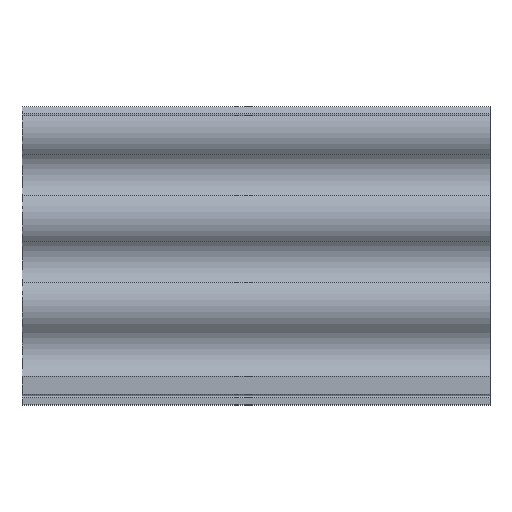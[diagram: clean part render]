
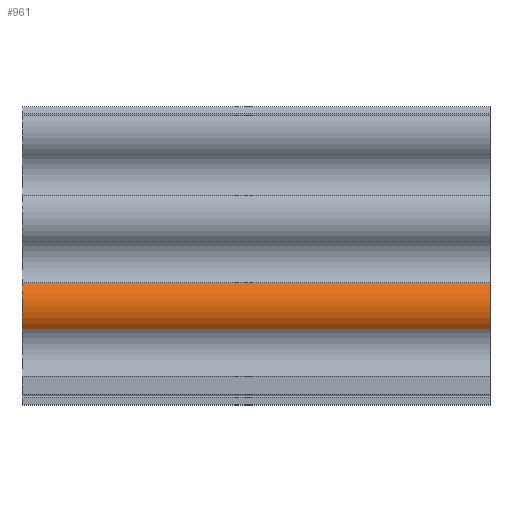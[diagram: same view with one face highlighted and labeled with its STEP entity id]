
A CAD part, top view. The second image highlights one B-rep face of the part: STEP entity #961.
In plain terms, the highlighted cylindrical face has radius 19.5 mm (diameter 39 mm), a partial arc.
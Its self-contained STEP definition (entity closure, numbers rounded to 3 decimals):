
#265=CARTESIAN_POINT('',(-125.0,40.995,5.702));
#266=VERTEX_POINT('',#265);
#274=CARTESIAN_POINT('',(-125.0,65.422,5.702));
#275=VERTEX_POINT('',#274);
#276=CARTESIAN_POINT('',(-125.0,53.209,-9.5));
#277=DIRECTION('',(1.0,0.0,0.0));
#278=DIRECTION('',(0.0,0.0,1.0));
#279=AXIS2_PLACEMENT_3D('',#276,#277,#278);
#280=CIRCLE('',#279,19.5);
#281=EDGE_CURVE('',#275,#266,#280,.T.);
#917=CARTESIAN_POINT('',(125.0,40.995,5.702));
#918=VERTEX_POINT('',#917);
#926=CARTESIAN_POINT('',(-125.0,40.995,5.702));
#927=DIRECTION('',(1.0,0.0,0.0));
#928=VECTOR('',#927,250.0);
#929=LINE('',#926,#928);
#930=EDGE_CURVE('',#266,#918,#929,.T.);
#937=CARTESIAN_POINT('',(0.0,53.209,-9.5));
#938=DIRECTION('',(1.0,0.0,0.0));
#939=DIRECTION('',(0.0,0.626,0.78));
#940=AXIS2_PLACEMENT_3D('',#937,#938,#939);
#941=CYLINDRICAL_SURFACE('',#940,19.5);
#942=CARTESIAN_POINT('',(125.0,65.422,5.702));
#943=VERTEX_POINT('',#942);
#944=CARTESIAN_POINT('',(125.0,53.209,-9.5));
#945=DIRECTION('',(-1.0,0.0,0.0));
#946=DIRECTION('',(0.0,0.626,0.78));
#947=AXIS2_PLACEMENT_3D('',#944,#945,#946);
#948=CIRCLE('',#947,19.5);
#949=EDGE_CURVE('',#918,#943,#948,.T.);
#950=ORIENTED_EDGE('',*,*,#949,.T.);
#951=CARTESIAN_POINT('',(-125.0,65.422,5.702));
#952=DIRECTION('',(1.0,0.0,0.0));
#953=VECTOR('',#952,250.0);
#954=LINE('',#951,#953);
#955=EDGE_CURVE('',#275,#943,#954,.T.);
#956=ORIENTED_EDGE('',*,*,#955,.F.);
#957=ORIENTED_EDGE('',*,*,#281,.T.);
#958=ORIENTED_EDGE('',*,*,#930,.T.);
#959=EDGE_LOOP('',(#950,#956,#957,#958));
#960=FACE_OUTER_BOUND('',#959,.T.);
#961=ADVANCED_FACE('',(#960),#941,.T.);
